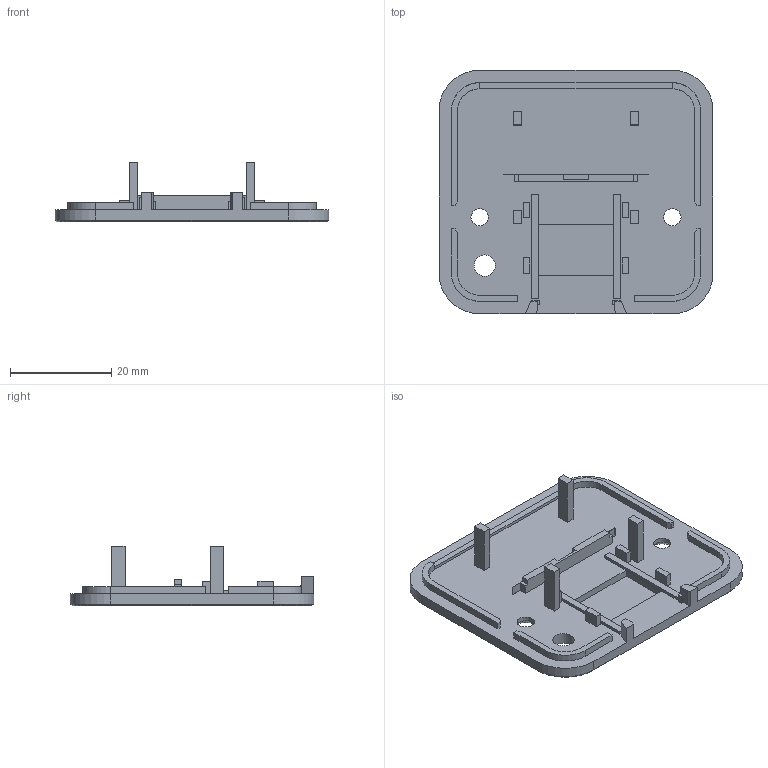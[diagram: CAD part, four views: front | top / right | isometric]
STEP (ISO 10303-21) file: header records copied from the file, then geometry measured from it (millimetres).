
FILE_DESCRIPTION(('Open CASCADE Model'),'2;1');
FILE_NAME('Open CASCADE Shape Model','2026-10-06T21:38:25',('Author'),( 'Open CASCADE'),'Open CASCADE STEP processor 7.9','Open CASCADE 7.9' ,'Unknown');
FILE_SCHEMA(('AUTOMOTIVE_DESIGN { 1 0 10303 214 1 1 1 1 }'));
Length unit declared in the file: millimetre
Products named in the file (1): Open CASCADE STEP translator 7.9 2
Bounding box: 54 x 48 x 11.8 mm (x, y, z)
Volume: 6303.5 mm3; surface area: 6584.7 mm2
Topology: 1 solids, 1 shells, 158 faces, 415 edges, 272 vertices
Faces by surface type: plane 133, cylinder 19, cone 6
Full cylindrical faces by diameter (mm): 3.4 x2, 4.2 x1
Entity records: 10079 total; most frequent: CARTESIAN_POINT 1971, DIRECTION 1406, LINE 968, VECTOR 968, ORIENTED_EDGE 830, PCURVE 830, DEFINITIONAL_REPRESENTATION 830, EDGE_CURVE 415
